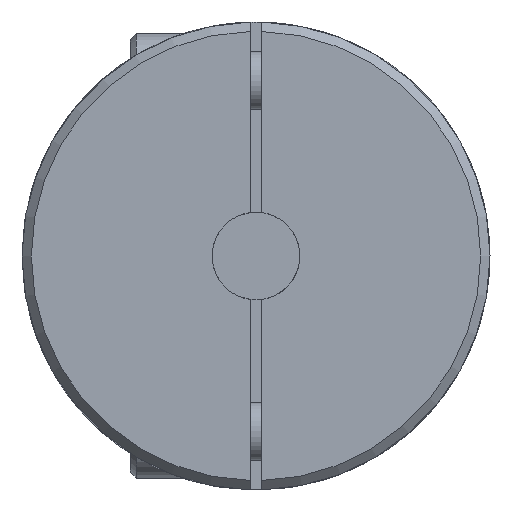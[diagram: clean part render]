
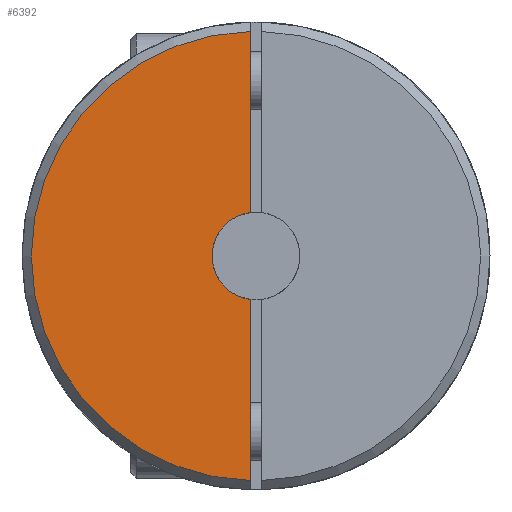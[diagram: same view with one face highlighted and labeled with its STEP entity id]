
A CAD part, left-side view. The second image highlights one B-rep face of the part: STEP entity #6392.
In plain terms, the highlighted planar face has unit normal (-1, 0, 0).
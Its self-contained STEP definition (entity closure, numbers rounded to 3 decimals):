
#371=PLANE('',#6889);
#516=FACE_OUTER_BOUND('',#936,.T.);
#936=EDGE_LOOP('',(#4311,#4312,#4313,#4314));
#1389=CIRCLE('',#6819,7.5);
#1433=CIRCLE('',#6887,38.4);
#1945=LINE('',#10042,#2241);
#1968=LINE('',#10313,#2264);
#2241=VECTOR('',#7805,1000.);
#2264=VECTOR('',#7960,1000.);
#2533=VERTEX_POINT('',#10025);
#2535=VERTEX_POINT('',#10028);
#2540=VERTEX_POINT('',#10041);
#2595=VERTEX_POINT('',#10305);
#3184=EDGE_CURVE('',#2535,#2533,#1389,.T.);
#3191=EDGE_CURVE('',#2540,#2535,#1945,.T.);
#3267=EDGE_CURVE('',#2540,#2595,#1433,.T.);
#3270=EDGE_CURVE('',#2533,#2595,#1968,.T.);
#4311=ORIENTED_EDGE('',*,*,#3184,.T.);
#4312=ORIENTED_EDGE('',*,*,#3270,.T.);
#4313=ORIENTED_EDGE('',*,*,#3267,.F.);
#4314=ORIENTED_EDGE('',*,*,#3191,.T.);
#6392=ADVANCED_FACE('',(#516),#371,.F.);
#6819=AXIS2_PLACEMENT_3D('',#10029,#7792,#7793);
#6887=AXIS2_PLACEMENT_3D('',#10306,#7954,#7955);
#6889=AXIS2_PLACEMENT_3D('',#10312,#7958,#7959);
#7792=DIRECTION('center_axis',(1.,0.,0.));
#7793=DIRECTION('ref_axis',(0.,0.,1.));
#7805=DIRECTION('',(0.,0.,1.));
#7954=DIRECTION('center_axis',(1.,0.,0.));
#7955=DIRECTION('ref_axis',(0.,0.,-1.));
#7958=DIRECTION('center_axis',(1.,0.,0.));
#7959=DIRECTION('ref_axis',(0.,0.,-1.));
#7960=DIRECTION('',(0.,0.,1.));
#10025=CARTESIAN_POINT('',(-167.,1.,7.433));
#10028=CARTESIAN_POINT('',(-167.,1.,-7.433));
#10029=CARTESIAN_POINT('Origin',(-167.,0.,0.));
#10041=CARTESIAN_POINT('',(-167.,1.,-38.387));
#10042=CARTESIAN_POINT('',(-167.,1.,-39.987));
#10305=CARTESIAN_POINT('',(-167.,1.,38.387));
#10306=CARTESIAN_POINT('Origin',(-167.,0.,0.));
#10312=CARTESIAN_POINT('Origin',(-167.,0.,0.));
#10313=CARTESIAN_POINT('',(-167.,1.,-39.987));
